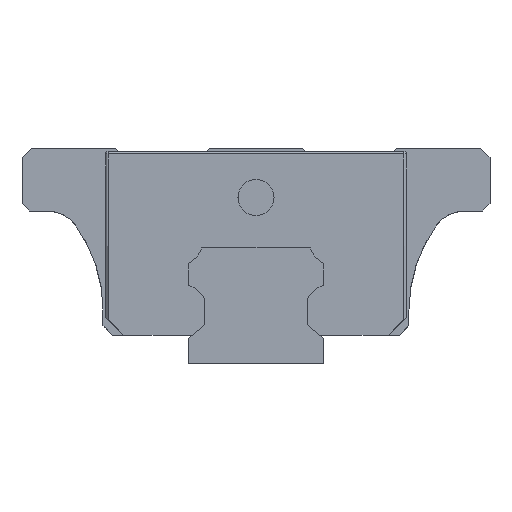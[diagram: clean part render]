
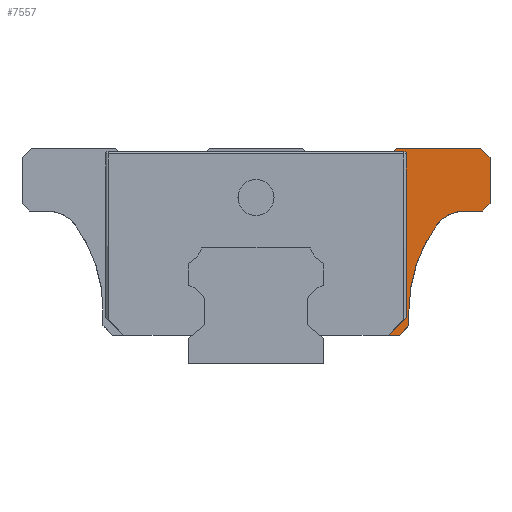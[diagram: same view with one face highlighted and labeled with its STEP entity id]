
A CAD part, left-side view. The second image highlights one B-rep face of the part: STEP entity #7557.
In plain terms, the highlighted planar face has unit normal (-1, 0, 0).
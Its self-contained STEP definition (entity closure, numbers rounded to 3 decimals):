
#63 = FACE_OUTER_BOUND ( 'NONE', #3984, .T. ) ;
#104 = DIRECTION ( 'NONE',  ( 0., 0., 1. ) ) ;
#127 = DIRECTION ( 'NONE',  ( 1., 0., 0. ) ) ;
#189 = ORIENTED_EDGE ( 'NONE', *, *, #6215, .F. ) ;
#205 = CARTESIAN_POINT ( 'NONE',  ( -19.75, -24.95, 24. ) ) ;
#252 = DIRECTION ( 'NONE',  ( 0., 0., 1. ) ) ;
#390 = DIRECTION ( 'NONE',  ( 0., -1., 0. ) ) ;
#526 = EDGE_CURVE ( 'NONE', #7906, #6136, #6834, .T. ) ;
#622 = VERTEX_POINT ( 'NONE', #2450 ) ;
#708 = ORIENTED_EDGE ( 'NONE', *, *, #6388, .T. ) ;
#720 = LINE ( 'NONE', #5058, #5204 ) ;
#734 = CARTESIAN_POINT ( 'NONE',  ( -19.75, -17., 4.25 ) ) ;
#750 = CARTESIAN_POINT ( 'NONE',  ( -19.75, -16.702, 23.335 ) ) ;
#797 = VERTEX_POINT ( 'NONE', #2383 ) ;
#917 = EDGE_CURVE ( 'NONE', #2040, #4570, #2784, .T. ) ;
#1181 = ORIENTED_EDGE ( 'NONE', *, *, #6957, .T. ) ;
#1335 = CARTESIAN_POINT ( 'NONE',  ( -19.75, -6.587, 3.2 ) ) ;
#1414 = DIRECTION ( 'NONE',  ( 0., 0., 1. ) ) ;
#1503 = DIRECTION ( 'NONE',  ( 0., -1., 0. ) ) ;
#1508 = VERTEX_POINT ( 'NONE', #4863 ) ;
#1601 = CARTESIAN_POINT ( 'NONE',  ( -19.75, -26., 24. ) ) ;
#1623 = CARTESIAN_POINT ( 'NONE',  ( -19.75, -23.253, 17. ) ) ;
#1665 = VECTOR ( 'NONE', #7173, 1000. ) ;
#1724 = VECTOR ( 'NONE', #390, 1000. ) ;
#1798 = EDGE_CURVE ( 'NONE', #622, #1866, #5232, .T. ) ;
#1866 = VERTEX_POINT ( 'NONE', #2428 ) ;
#1949 = CARTESIAN_POINT ( 'NONE',  ( -19.75, -26., 17.8 ) ) ;
#2040 = VERTEX_POINT ( 'NONE', #7018 ) ;
#2115 = CARTESIAN_POINT ( 'NONE',  ( -19.75, -8.424, 3.2 ) ) ;
#2172 = LINE ( 'NONE', #1601, #1665 ) ;
#2314 = CARTESIAN_POINT ( 'NONE',  ( -19.75, -25.2, 17. ) ) ;
#2328 = CARTESIAN_POINT ( 'NONE',  ( -19.75, -23.253, 13. ) ) ;
#2376 = CIRCLE ( 'NONE', #3433, 0.26 ) ;
#2383 = CARTESIAN_POINT ( 'NONE',  ( -19.75, -26., 17.8 ) ) ;
#2428 = CARTESIAN_POINT ( 'NONE',  ( -19.75, -15.95, 3.2 ) ) ;
#2437 = ORIENTED_EDGE ( 'NONE', *, *, #3509, .T. ) ;
#2450 = CARTESIAN_POINT ( 'NONE',  ( -19.75, -14.696, 3.2 ) ) ;
#2460 = EDGE_CURVE ( 'NONE', #4077, #7906, #2692, .T. ) ;
#2492 = ORIENTED_EDGE ( 'NONE', *, *, #1798, .T. ) ;
#2545 = CARTESIAN_POINT ( 'NONE',  ( -19.75, -24.95, 24. ) ) ;
#2646 = VECTOR ( 'NONE', #3711, 1000. ) ;
#2687 = VECTOR ( 'NONE', #8055, 1000. ) ;
#2692 = CIRCLE ( 'NONE', #6751, 16. ) ;
#2694 = DIRECTION ( 'NONE',  ( 0., 0.707, 0.707 ) ) ;
#2714 = AXIS2_PLACEMENT_3D ( 'NONE', #1335, #3793, #104 ) ;
#2743 = DIRECTION ( 'NONE',  ( 0., 0., 1. ) ) ;
#2753 = LINE ( 'NONE', #6324, #7358 ) ;
#2784 = LINE ( 'NONE', #4063, #2865 ) ;
#2865 = VECTOR ( 'NONE', #2743, 1000. ) ;
#2914 = VERTEX_POINT ( 'NONE', #4124 ) ;
#2930 = EDGE_CURVE ( 'NONE', #1508, #2914, #4780, .T. ) ;
#2932 = ORIENTED_EDGE ( 'NONE', *, *, #526, .T. ) ;
#2981 = DIRECTION ( 'NONE',  ( 0., -0.707, 0.707 ) ) ;
#3140 = LINE ( 'NONE', #1949, #6509 ) ;
#3227 = CARTESIAN_POINT ( 'NONE',  ( -19.75, -20.004, 15.333 ) ) ;
#3429 = LINE ( 'NONE', #5929, #2646 ) ;
#3433 = AXIS2_PLACEMENT_3D ( 'NONE', #3985, #6354, #5131 ) ;
#3509 = EDGE_CURVE ( 'NONE', #5167, #4570, #2376, .T. ) ;
#3637 = ORIENTED_EDGE ( 'NONE', *, *, #7198, .T. ) ;
#3711 = DIRECTION ( 'NONE',  ( 0., 1., 0. ) ) ;
#3793 = DIRECTION ( 'NONE',  ( -1., 0., 0. ) ) ;
#3876 = CARTESIAN_POINT ( 'NONE',  ( -19.75, -16.442, 23.595 ) ) ;
#3922 = EDGE_CURVE ( 'NONE', #5341, #6812, #4467, .T. ) ;
#3984 = EDGE_LOOP ( 'NONE', ( #7590, #708, #4254, #1181, #7987, #189, #2437, #7439, #6825, #2492, #3637, #7744, #6545, #2932, #5645 ) ) ;
#3985 = CARTESIAN_POINT ( 'NONE',  ( -19.75, -16.442, 23.335 ) ) ;
#4063 = CARTESIAN_POINT ( 'NONE',  ( -19.75, -16.702, 5.2 ) ) ;
#4077 = VERTEX_POINT ( 'NONE', #4312 ) ;
#4124 = CARTESIAN_POINT ( 'NONE',  ( -19.75, -15.26, 23.595 ) ) ;
#4254 = ORIENTED_EDGE ( 'NONE', *, *, #3922, .T. ) ;
#4279 = CARTESIAN_POINT ( 'NONE',  ( -19.75, -15.6, 24. ) ) ;
#4312 = CARTESIAN_POINT ( 'NONE',  ( -19.75, -17., 6. ) ) ;
#4372 = DIRECTION ( 'NONE',  ( 0., -0.707, 0.707 ) ) ;
#4416 = VERTEX_POINT ( 'NONE', #4888 ) ;
#4426 = VECTOR ( 'NONE', #2981, 1000. ) ;
#4466 = DIRECTION ( 'NONE',  ( 0., -0.707, 0.707 ) ) ;
#4467 = LINE ( 'NONE', #205, #4469 ) ;
#4469 = VECTOR ( 'NONE', #2694, 1000. ) ;
#4570 = VERTEX_POINT ( 'NONE', #750 ) ;
#4780 = LINE ( 'NONE', #4279, #2687 ) ;
#4831 = DIRECTION ( 'NONE',  ( 1., 0., 0. ) ) ;
#4863 = CARTESIAN_POINT ( 'NONE',  ( -19.75, -15.6, 24. ) ) ;
#4888 = CARTESIAN_POINT ( 'NONE',  ( -19.75, -17., 4.25 ) ) ;
#5058 = CARTESIAN_POINT ( 'NONE',  ( -19.75, -17., 6. ) ) ;
#5105 = VERTEX_POINT ( 'NONE', #6876 ) ;
#5131 = DIRECTION ( 'NONE',  ( 0., 0., 1. ) ) ;
#5167 = VERTEX_POINT ( 'NONE', #3876 ) ;
#5204 = VECTOR ( 'NONE', #7524, 1000. ) ;
#5232 = LINE ( 'NONE', #2115, #5252 ) ;
#5252 = VECTOR ( 'NONE', #1503, 1000. ) ;
#5341 = VERTEX_POINT ( 'NONE', #7808 ) ;
#5393 = AXIS2_PLACEMENT_3D ( 'NONE', #2328, #4831, #7328 ) ;
#5645 = ORIENTED_EDGE ( 'NONE', *, *, #6079, .T. ) ;
#5710 = PLANE ( 'NONE',  #2714 ) ;
#5862 = CARTESIAN_POINT ( 'NONE',  ( -19.75, -33., 6. ) ) ;
#5929 = CARTESIAN_POINT ( 'NONE',  ( -19.75, -18.027, 23.595 ) ) ;
#6079 = EDGE_CURVE ( 'NONE', #6136, #5105, #7893, .T. ) ;
#6136 = VERTEX_POINT ( 'NONE', #1623 ) ;
#6215 = EDGE_CURVE ( 'NONE', #5167, #2914, #3429, .T. ) ;
#6324 = CARTESIAN_POINT ( 'NONE',  ( -19.75, -26., 17. ) ) ;
#6343 = LINE ( 'NONE', #734, #7160 ) ;
#6354 = DIRECTION ( 'NONE',  ( 1., 0., 0. ) ) ;
#6388 = EDGE_CURVE ( 'NONE', #797, #5341, #2753, .T. ) ;
#6509 = VECTOR ( 'NONE', #4372, 1000. ) ;
#6545 = ORIENTED_EDGE ( 'NONE', *, *, #2460, .T. ) ;
#6751 = AXIS2_PLACEMENT_3D ( 'NONE', #5862, #127, #252 ) ;
#6812 = VERTEX_POINT ( 'NONE', #2545 ) ;
#6825 = ORIENTED_EDGE ( 'NONE', *, *, #7421, .F. ) ;
#6834 = CIRCLE ( 'NONE', #5393, 4. ) ;
#6876 = CARTESIAN_POINT ( 'NONE',  ( -19.75, -25.2, 17. ) ) ;
#6957 = EDGE_CURVE ( 'NONE', #6812, #1508, #2172, .T. ) ;
#7018 = CARTESIAN_POINT ( 'NONE',  ( -19.75, -16.702, 5.206 ) ) ;
#7160 = VECTOR ( 'NONE', #4466, 1000. ) ;
#7173 = DIRECTION ( 'NONE',  ( 0., 1., 0. ) ) ;
#7198 = EDGE_CURVE ( 'NONE', #1866, #4416, #6343, .T. ) ;
#7240 = CARTESIAN_POINT ( 'NONE',  ( -19.75, -14.696, 3.2 ) ) ;
#7328 = DIRECTION ( 'NONE',  ( 0., 0., 1. ) ) ;
#7358 = VECTOR ( 'NONE', #1414, 1000. ) ;
#7421 = EDGE_CURVE ( 'NONE', #622, #2040, #7896, .T. ) ;
#7439 = ORIENTED_EDGE ( 'NONE', *, *, #917, .F. ) ;
#7501 = EDGE_CURVE ( 'NONE', #5105, #797, #3140, .T. ) ;
#7524 = DIRECTION ( 'NONE',  ( 0., 0., 1. ) ) ;
#7555 = EDGE_CURVE ( 'NONE', #4416, #4077, #720, .T. ) ;
#7557 = ADVANCED_FACE ( 'NONE', ( #63 ), #5710, .T. ) ;
#7590 = ORIENTED_EDGE ( 'NONE', *, *, #7501, .T. ) ;
#7744 = ORIENTED_EDGE ( 'NONE', *, *, #7555, .T. ) ;
#7808 = CARTESIAN_POINT ( 'NONE',  ( -19.75, -26., 22.95 ) ) ;
#7893 = LINE ( 'NONE', #2314, #1724 ) ;
#7896 = LINE ( 'NONE', #7240, #4426 ) ;
#7906 = VERTEX_POINT ( 'NONE', #3227 ) ;
#7987 = ORIENTED_EDGE ( 'NONE', *, *, #2930, .T. ) ;
#8055 = DIRECTION ( 'NONE',  ( 0., 0.643, -0.766 ) ) ;
